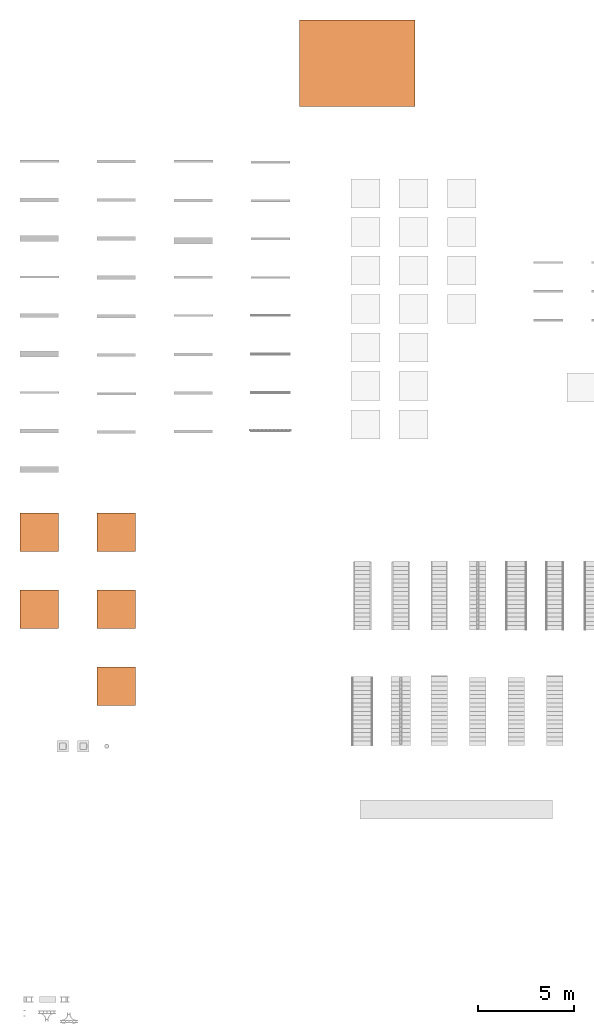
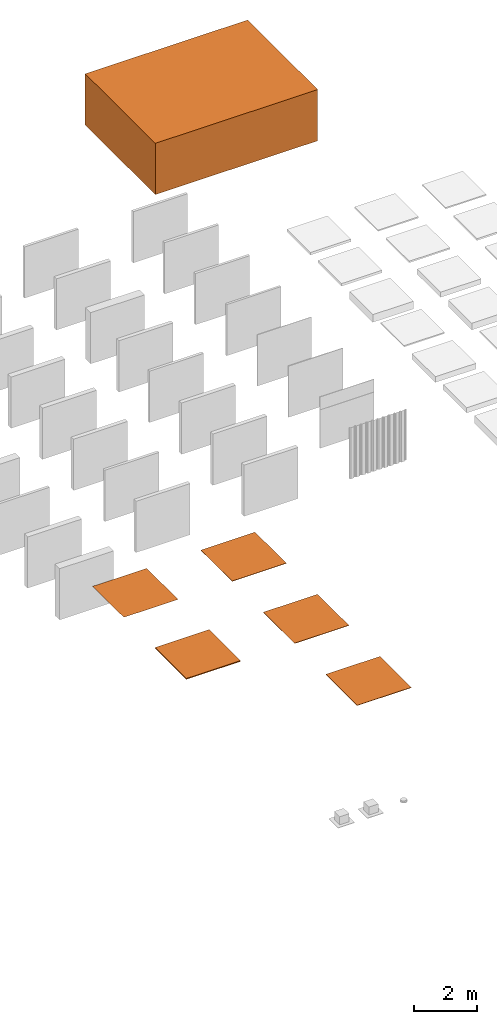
# One storey, part 11 of 11: 6 proxies.
"""IFC2X3 building model written with IfcOpenShell, lengths in millimetres."""

from ifc_helpers import new_model, entity, si_unit, converted_unit, derived_unit, direction, frame, frame_2d, origin, origin_2d_with_axis, place, context, subcontext, project, spatial, rectangle, extrude, face_set, surface_model, source, transform, mapped, material, element, save


model = new_model("IFC2X3")

# Units and contexts
model_context = context("Model", 3, precision=0.01, world=origin(), true_north=direction((6.12303176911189e-17, 1.0)))
body_context = subcontext(model_context, "Body", "Model", "MODEL_VIEW")
ifc_project = project(units=[si_unit("LENGTHUNIT", "METRE", prefix="MILLI"), si_unit("AREAUNIT", "SQUARE_METRE"), si_unit("VOLUMEUNIT", "CUBIC_METRE"), converted_unit("PLANEANGLEUNIT", "DEGREE", entity("IfcRatioMeasure", 0.0174532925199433), si_unit("PLANEANGLEUNIT", "RADIAN"), dimensions=[0, 0, 0, 0, 0, 0, 0]), si_unit("MASSUNIT", "GRAM", prefix="KILO"), si_unit("TIMEUNIT", "SECOND"), si_unit("FREQUENCYUNIT", "HERTZ"), si_unit("THERMODYNAMICTEMPERATUREUNIT", "KELVIN"), derived_unit("THERMALTRANSMITTANCEUNIT", [(si_unit("MASSUNIT", "GRAM", prefix="KILO"), 1), (si_unit("THERMODYNAMICTEMPERATUREUNIT", "KELVIN"), -1), (si_unit("TIMEUNIT", "SECOND"), -3)]), derived_unit("VOLUMETRICFLOWRATEUNIT", [(si_unit("LENGTHUNIT", "METRE"), 3), (si_unit("TIMEUNIT", "SECOND"), -1)]), si_unit("ELECTRICCURRENTUNIT", "AMPERE"), si_unit("ELECTRICVOLTAGEUNIT", "VOLT"), si_unit("POWERUNIT", "WATT")], contexts=[model_context])

# Site, building, storey
site_placement = place(None, origin())
site = spatial("IfcSite", under=ifc_project, at=site_placement, Name="Surface:5707", CompositionType="ELEMENT")
building_placement = place(site_placement, origin())
building = spatial("IfcBuilding", under=site, at=building_placement, CompositionType="ELEMENT")
storey_placement = place(building_placement, origin())
storey = spatial("IfcBuildingStorey", under=building, at=storey_placement, Name="00_begane grond", CompositionType="ELEMENT", Elevation=0.0)

# Proxies
shared_shape_1 = source(origin(), body_context, "Body", "SurfaceModel", [
    surface_model("IfcFaceBasedSurfaceModel", [(2000.0, 2000.0, 0.0), (0.0, 2000.0, 0.0), (0.0, 0.0, 0.0), (2000.0, 0.0, 0.0)], [face_set([[[0, 1, 2, 3]]])]),
])
proxy_1_placement = place(storey_placement, frame((0.0, -21266.4613273, 2600.0)))
element("IfcBuildingElementProxy", 1, at=proxy_1_placement, inside=storey, Name="Basic Ceiling:45_CEI_plafond_MEP_host:45_CEI_plafond_MEP_host : Basic Ceiling:45_CEI_plafond_MEP_host:2324", ObjectType="45_CEI_plafond_MEP_host : Basic Ceiling:45_CEI_plafond_MEP_host", CompositionType="ELEMENT", context=body_context, shape_type="MappedRepresentation", body=[
    mapped(shared_shape_1, transform((0.0, 0.0, 0.0), scale=1.0)),
])
ifc_material_1 = material(Name="45_gips_plafond_beplating_610mm")
shared_shape_2 = source(origin(), body_context, "Body", "SweptSolid", [
    extrude(rectangle(XDim=2000.0, YDim=2000.0, at=frame_2d((-2.1600499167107e-12, 0.0), x_axis=(1.0, 0.0))), frame((1000.0, 1000.0, 0.0), z_axis=(0.0, 0.0, 1.0), x_axis=(0.0, -1.0, 0.0)), (0.0, 0.0, 1.0), 36.4999999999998),
])
proxy_2_placement = place(storey_placement, frame((0.0, -25266.4613273, 2600.0)))
element("IfcBuildingElementProxy", 2, at=proxy_2_placement, inside=storey, material=ifc_material_1, Name="Compound Ceiling:45_CEI_plafond_gipsplaat_610mm_wit:45_CEI_plafond_gipsplaat_610mm_wit : Compound Ceiling:45_CEI_plafond_gipsplaat_610mm_wit:2332", ObjectType="45_CEI_plafond_gipsplaat_610mm_wit : Compound Ceiling:45_CEI_plafond_gipsplaat_610mm_wit", CompositionType="ELEMENT", context=body_context, shape_type="MappedRepresentation", body=[
    mapped(shared_shape_2, transform((0.0, 0.0, 0.0), scale=1.0)),
])
ifc_material_2 = material(Name="45_plafond_systeemplafond_600x600_wit")
shared_shape_3 = source(origin(), body_context, "Body", "SweptSolid", [
    extrude(rectangle(XDim=2000.0, YDim=2000.0, at=frame_2d((-2.1600499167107e-12, 0.0), x_axis=(1.0, 0.0))), frame((1000.0, 1000.0, 0.0), z_axis=(0.0, 0.0, 1.0), x_axis=(0.0, -1.0, 0.0)), (0.0, 0.0, 1.0), 14.9999999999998),
])
proxy_3_placement = place(storey_placement, frame((4000.0, -25266.4613273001, 2600.0)))
element("IfcBuildingElementProxy", 3, at=proxy_3_placement, inside=storey, material=ifc_material_2, Name="Compound Ceiling:45_CEI_systeemplafond_600x600_wit:45_CEI_systeemplafond_600x600_wit : Compound Ceiling:45_CEI_systeemplafond_600x600_wit:2347", ObjectType="45_CEI_systeemplafond_600x600_wit : Compound Ceiling:45_CEI_systeemplafond_600x600_wit", CompositionType="ELEMENT", context=body_context, shape_type="MappedRepresentation", body=[
    mapped(shared_shape_3, transform((0.0, 0.0, 0.0), scale=1.0)),
])
ifc_material_3 = material(Name="45_plafond_systeemplafond_600x600_donkerrood")
shared_shape_4 = source(origin(), body_context, "Body", "SweptSolid", [
    extrude(rectangle(XDim=2000.0, YDim=2000.0, at=frame_2d((-2.1600499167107e-12, 0.0), x_axis=(1.0, 0.0))), frame((1000.0, 1000.0, 0.0), z_axis=(0.0, 0.0, 1.0), x_axis=(0.0, -1.0, 0.0)), (0.0, 0.0, 1.0), 14.9999999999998),
])
proxy_4_placement = place(storey_placement, frame((4000.0, -21266.4613273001, 2600.0)))
element("IfcBuildingElementProxy", 4, at=proxy_4_placement, inside=storey, material=ifc_material_3, Name="Compound Ceiling:45_CEI_systeemplafond_600x600_rood:45_CEI_systeemplafond_600x600_rood : Compound Ceiling:45_CEI_systeemplafond_600x600_rood:2366", ObjectType="45_CEI_systeemplafond_600x600_rood : Compound Ceiling:45_CEI_systeemplafond_600x600_rood", CompositionType="ELEMENT", context=body_context, shape_type="MappedRepresentation", body=[
    mapped(shared_shape_4, transform((0.0, 0.0, 0.0), scale=1.0)),
])
ifc_material_4 = material(Name="45_plafond_systeemplafond_1200x600_wit")
shared_shape_5 = source(origin(), body_context, "Body", "SweptSolid", [
    extrude(rectangle(XDim=2000.0, YDim=2000.0, at=frame_2d((-2.1600499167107e-12, 0.0), x_axis=(1.0, 0.0))), frame((1000.0, 1000.0, 0.0), z_axis=(0.0, 0.0, 1.0), x_axis=(0.0, -1.0, 0.0)), (0.0, 0.0, 1.0), 14.9999999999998),
])
proxy_5_placement = place(storey_placement, frame((4000.0, -29266.4613273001, 2600.0)))
element("IfcBuildingElementProxy", 5, at=proxy_5_placement, inside=storey, material=ifc_material_4, Name="Compound Ceiling:45_CEI_systeemplafond_1200x600_wit:45_CEI_systeemplafond_1200x600_wit : Compound Ceiling:45_CEI_systeemplafond_1200x600_wit:2381", ObjectType="45_CEI_systeemplafond_1200x600_wit : Compound Ceiling:45_CEI_systeemplafond_1200x600_wit", CompositionType="ELEMENT", context=body_context, shape_type="MappedRepresentation", body=[
    mapped(shared_shape_5, transform((0.0, 0.0, 0.0), scale=1.0)),
])
ifc_material_5 = material(Name="000_MA_bestaande bebouwing_IP")
shared_shape_6 = source(origin(), body_context, "Body", "SweptSolid", [
    extrude(rectangle(XDim=5999.99999999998, YDim=4480.69535146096, at=origin_2d_with_axis()), frame((3000.0, 2240.34767573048, 0.0), z_axis=(0.0, 0.0, 1.0), x_axis=(-1.0, 0.0, 0.0)), (0.0, 0.0, 1.0), 2000.0),
])
proxy_6_placement = place(storey_placement, frame((14515.0516086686, 1866.05017385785, 0.0)))
element("IfcBuildingElementProxy", 6, at=proxy_6_placement, inside=storey, material=ifc_material_5, Name="00_Mass_bestaand:00_Mass_bestaand:00_Mass_bestaand : 00_Mass_bestaand:00_Mass_bestaand:4787", ObjectType="00_Mass_bestaand : 00_Mass_bestaand:00_Mass_bestaand", CompositionType="ELEMENT", context=body_context, shape_type="MappedRepresentation", body=[
    mapped(shared_shape_6, transform((0.0, 0.0, 0.0), scale=1.0)),
])

save(model, "model.ifc")
